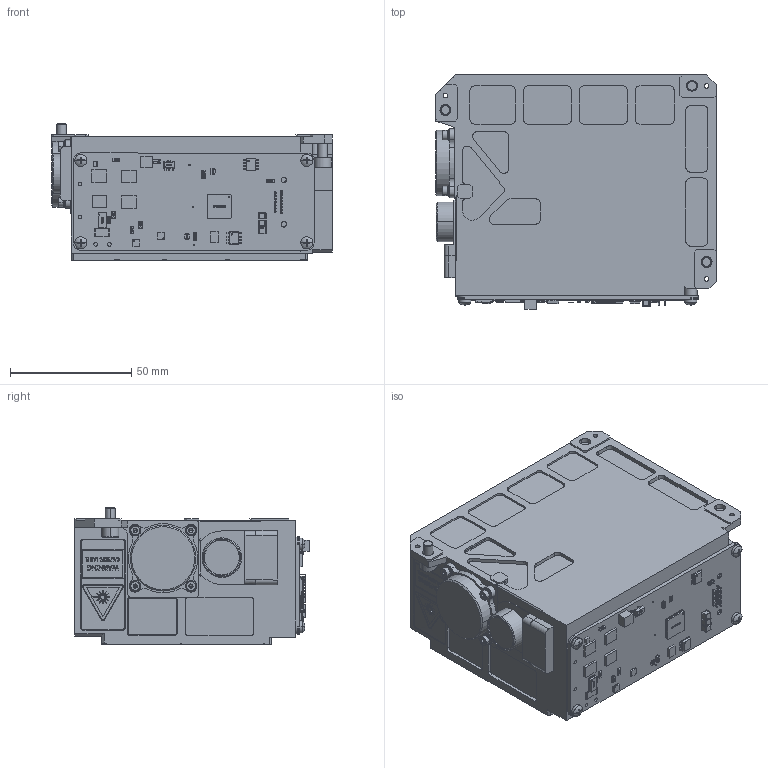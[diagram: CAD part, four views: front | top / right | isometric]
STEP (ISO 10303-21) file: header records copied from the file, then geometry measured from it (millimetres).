
FILE_DESCRIPTION((''),'2;1');
FILE_NAME('LS-608_00_SW0004','2024-11-22T09:34:42',('Administrator'),(''),'CREO PARAMETRIC BY PTC INC, 2020053','CREO PARAMETRIC BY PTC INC, 2020053','');
FILE_SCHEMA(('CONFIG_CONTROL_DESIGN','SHAPE_APPEARANCE_LAYERS_GROUPS'));
Products named in the file (1): LS-608_00_SW0004
Bounding box: 115.5 x 96.4 x 56.1 mm (x, y, z)
Volume: 487474 mm3; surface area: 46537.6 mm2
Topology: 23 solids, 23 shells, 2977 faces, 8156 edges, 5423 vertices
Faces by surface type: plane 1695, cylinder 659, extrusion 392, sphere 114, cone 109, torus 8
Entity records: 128649 total; most frequent: CARTESIAN_POINT 39745, ORIENTED_EDGE 16096, DIRECTION 13316, EDGE_CURVE 8048, VERTEX_POINT 5423, VECTOR 5384, LINE 4992, AXIS2_PLACEMENT_3D 3966
